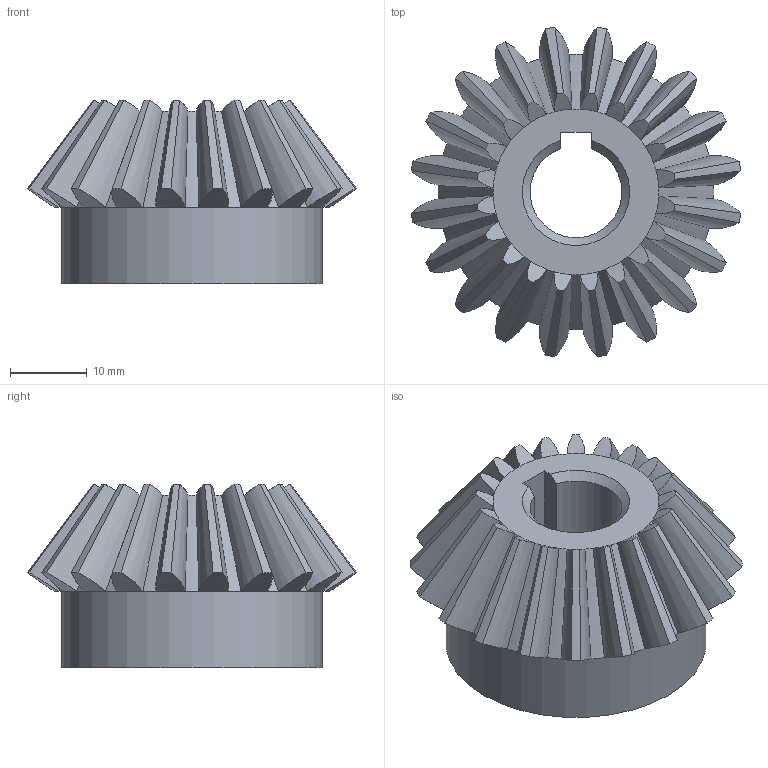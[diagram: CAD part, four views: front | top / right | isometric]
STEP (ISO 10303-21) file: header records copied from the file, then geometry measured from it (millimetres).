
FILE_DESCRIPTION(/* description */ (''),/* implementation_level */ '2;1');
FILE_NAME(/* name */ '',/* time_stamp */ '2024-08-02T13:14:28+09:00',/* author */ ('jhkim'),/* organization */ (''),/* preprocessor_version */ 'ST-DEVELOPER v20',/* originating_system */ 'Autodesk Inventor 2025',/* authorisation */ '');
FILE_SCHEMA (('AUTOMOTIVE_DESIGN { 1 0 10303 214 3 1 1 }'));
Length unit declared in the file: millimetre
Products named in the file (1): 서브베벨기어
Bounding box: 42.98 x 42.98 x 23.98 mm (x, y, z)
Volume: 17157.4 mm3; surface area: 6364.7 mm2
Topology: 1 solids, 1 shells, 130 faces, 301 edges, 176 vertices
Faces by surface type: cone 82, bspline 40, plane 6, cylinder 2
Full cylindrical faces by diameter (mm): 34 x1
Entity records: 5182 total; most frequent: CARTESIAN_POINT 2551, ORIENTED_EDGE 602, DIRECTION 445, EDGE_CURVE 301, AXIS2_PLACEMENT_3D 217, VERTEX_POINT 174, B_SPLINE_CURVE_WITH_KNOTS 160, EDGE_LOOP 133
